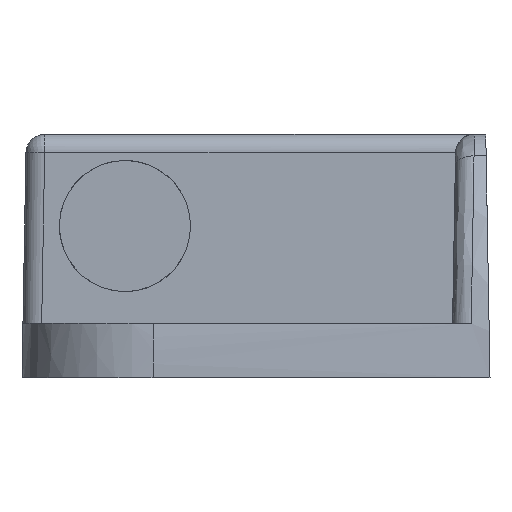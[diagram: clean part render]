
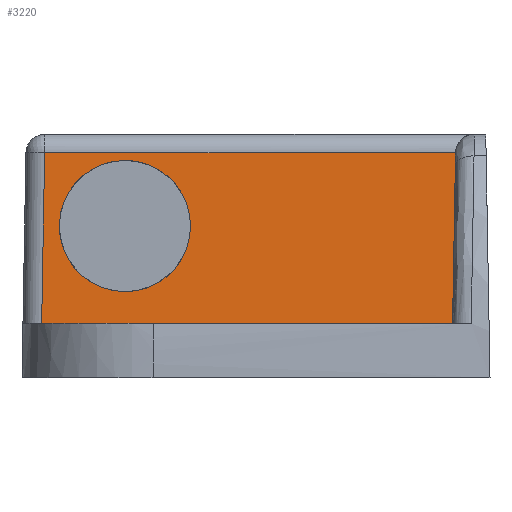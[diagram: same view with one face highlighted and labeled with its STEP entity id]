
A CAD part, left-side view. The second image highlights one B-rep face of the part: STEP entity #3220.
In plain terms, the highlighted planar face has unit normal (-1, 0, 0.018).
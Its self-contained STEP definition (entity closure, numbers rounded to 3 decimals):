
#15=ELLIPSE('',#3362,3.501,3.5);
#86=FACE_BOUND('',#586,.T.);
#213=PLANE('',#3519);
#389=FACE_OUTER_BOUND('',#585,.T.);
#585=EDGE_LOOP('',(#2914,#2915,#2916,#2917));
#586=EDGE_LOOP('',(#2918));
#1002=LINE('',#6167,#1321);
#1009=LINE('',#6323,#1328);
#1011=LINE('',#6327,#1330);
#1012=LINE('',#6328,#1331);
#1321=VECTOR('',#4292,10.);
#1328=VECTOR('',#4357,10.);
#1330=VECTOR('',#4361,10.);
#1331=VECTOR('',#4362,10.);
#1418=VERTEX_POINT('',#5442);
#1616=VERTEX_POINT('',#6164);
#1617=VERTEX_POINT('',#6166);
#1633=VERTEX_POINT('',#6322);
#1634=VERTEX_POINT('',#6326);
#1748=EDGE_CURVE('',#1418,#1418,#15,.T.);
#2042=EDGE_CURVE('',#1616,#1617,#1002,.T.);
#2071=EDGE_CURVE('',#1633,#1617,#1009,.T.);
#2073=EDGE_CURVE('',#1634,#1616,#1011,.T.);
#2074=EDGE_CURVE('',#1633,#1634,#1012,.T.);
#2914=ORIENTED_EDGE('',*,*,#2042,.F.);
#2915=ORIENTED_EDGE('',*,*,#2073,.F.);
#2916=ORIENTED_EDGE('',*,*,#2074,.F.);
#2917=ORIENTED_EDGE('',*,*,#2071,.T.);
#2918=ORIENTED_EDGE('',*,*,#1748,.T.);
#3220=ADVANCED_FACE('',(#389,#86),#213,.F.);
#3362=AXIS2_PLACEMENT_3D('',#5443,#3776,#3777);
#3519=AXIS2_PLACEMENT_3D('',#6325,#4359,#4360);
#3776=DIRECTION('center_axis',(1.,0.,
-0.017));
#3777=DIRECTION('ref_axis',(0.017,0.,1.));
#4292=DIRECTION('',(0.,-1.,0.));
#4357=DIRECTION('',(0.017,-0.017,1.));
#4359=DIRECTION('center_axis',(1.,0.,
-0.017));
#4360=DIRECTION('ref_axis',(0.,1.,0.));
#4361=DIRECTION('',(0.017,-0.017,1.));
#4362=DIRECTION('',(0.,1.,0.));
#5442=CARTESIAN_POINT('',(-33.97,19.5,4.6));
#5443=CARTESIAN_POINT('Origin',(-33.909,19.5,8.1));
#6164=CARTESIAN_POINT('',(-33.841,23.79,12.017));
#6166=CARTESIAN_POINT('',(-33.841,1.841,12.017));
#6167=CARTESIAN_POINT('',(-33.841,19.25,12.017));
#6322=CARTESIAN_POINT('',(-34.,2.,2.9));
#6323=CARTESIAN_POINT('',(-34.004,2.004,2.691));
#6325=CARTESIAN_POINT('Origin',(-34.,26.,2.9));
#6326=CARTESIAN_POINT('',(-34.,23.95,2.9));
#6327=CARTESIAN_POINT('',(-34.014,23.963,2.104));
#6328=CARTESIAN_POINT('',(-34.,2.,2.9));
